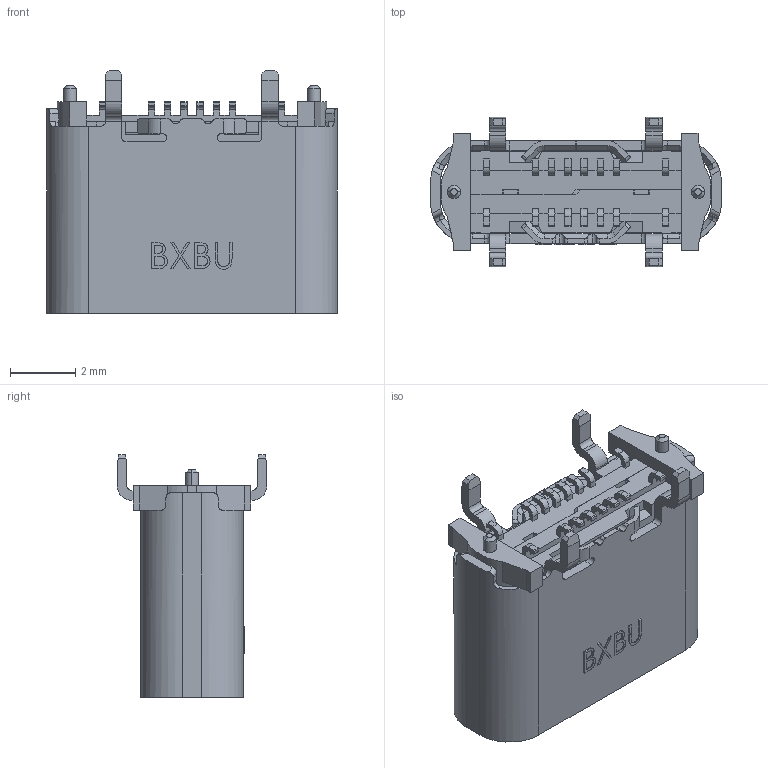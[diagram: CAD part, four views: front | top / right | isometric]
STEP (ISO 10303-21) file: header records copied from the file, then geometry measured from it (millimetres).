
FILE_DESCRIPTION (( 'STEP AP214' ), '1' );
FILE_NAME ('U5104-16PN6.5L.STEP', '2026-05-28T06:53:46', ( '' ), ( '' ), 'SwSTEP 2.0', 'SolidWorks 2024', '' );
FILE_SCHEMA (( 'AUTOMOTIVE_DESIGN' ));
Length unit declared in the file: millimetre
Products named in the file (1): U5104-16PN6.5L
Bounding box: 8.94 x 4.6 x 7.45 mm (x, y, z)
Volume: 85.3 mm3; surface area: 421.6 mm2
Topology: 1 solids, 1 shells, 752 faces, 2218 edges, 1457 vertices
Faces by surface type: plane 516, cylinder 186, bspline 25, cone 21, torus 4
Entity records: 26761 total; most frequent: CARTESIAN_POINT 6758, ORIENTED_EDGE 4436, DIRECTION 3843, EDGE_CURVE 2218, VECTOR 1705, LINE 1705, VERTEX_POINT 1457, AXIS2_PLACEMENT_3D 1069
